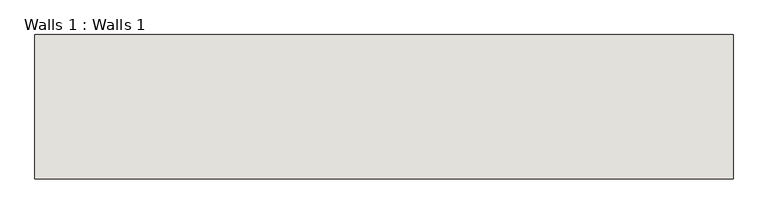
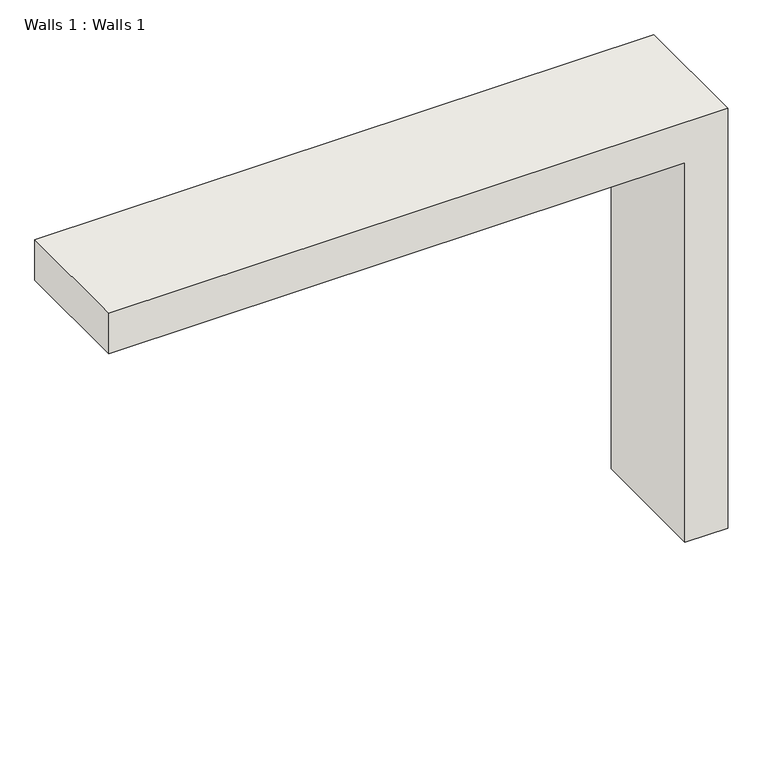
"""IFC4 building model written with IfcOpenShell, lengths in millimetres: wall geometry, Walls 1 : Walls 1."""

from ifc_helpers import new_model, si_unit, frame, origin, place, context, project, spatial, polyline, outline, extrude, source, transform, mapped, element, save


def walls_1_walls_1_7c86b917(model_context):
    return source(origin(), model_context, "Body", "SweptSolid", [
        extrude(outline(polyline([(180.0, 9205.8624114), (180.0, 9605.8624114), (4340.0, 9605.8624114), (4340.0, 3805.8624114), (3940.0, 3805.8624114), (3940.0, 9205.8624114), (180.0, 9205.8624114)])), frame((0.0, -5680.9818761, 0.0), z_axis=(0.0, 1.0, 0.0), x_axis=(0.0, 0.0, 1.0)), (0.0, 0.0, 1.0), 1200.0),
    ])


if __name__ == "__main__":
    model = new_model("IFC4")
    model_context = context("Model", 3, world=origin())
    ifc_project = project(units=[si_unit("LENGTHUNIT", "METRE", prefix="MILLI")], contexts=[model_context])
    site = spatial("IfcSite", under=ifc_project)
    building = spatial("IfcBuilding", under=site)
    placement = place(None, origin())
    walls_1_walls_1_shape = walls_1_walls_1_7c86b917(model_context)
    element("IfcWall", 1, ObjectType="Walls 1 : Walls 1", at=placement, inside=building, context=model_context, shape_type="MappedRepresentation", body=[
        mapped(walls_1_walls_1_shape, transform((0.0, 0.0, 0.0), x_axis=(1.0, 0.0, 0.0), y_axis=(0.0, 1.0, 0.0), z_axis=(0.0, 0.0, 1.0))),
    ])
    save(model, "model.ifc")
